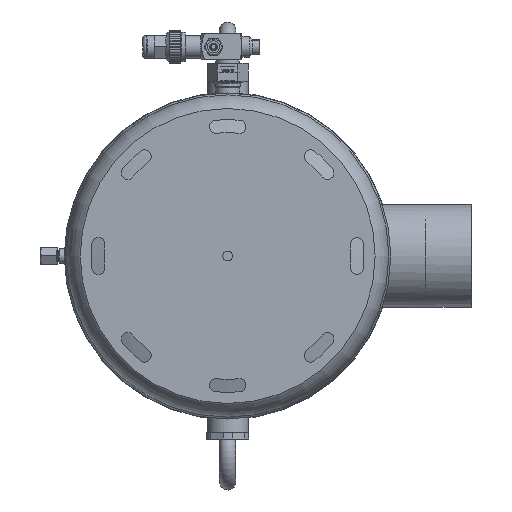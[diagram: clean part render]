
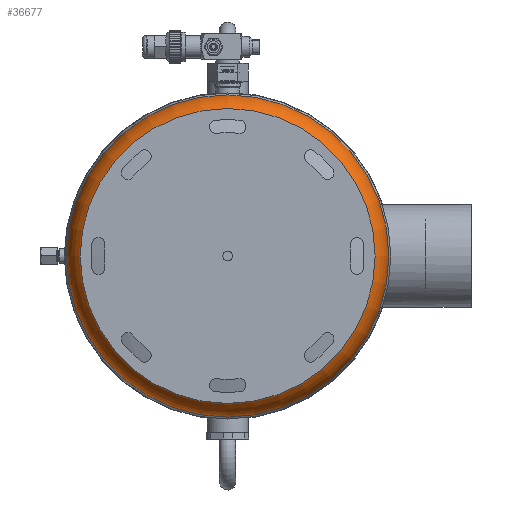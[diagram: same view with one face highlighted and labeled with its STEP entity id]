
A CAD part, front view. The second image highlights one B-rep face of the part: STEP entity #36677.
In plain terms, the highlighted toroidal (fillet/blend) face has major radius 103.2 mm and minor radius 33.4 mm.
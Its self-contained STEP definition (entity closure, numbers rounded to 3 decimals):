
#287=TOROIDAL_SURFACE('',#38632,103.2,33.4);
#5577=FACE_OUTER_BOUND('',#7760,.T.);
#7760=EDGE_LOOP('',(#31234,#31235,#31236,#31237,#31238,#31239,#31240));
#8947=CIRCLE('',#38626,117.235);
#8948=CIRCLE('',#38627,117.235);
#8949=CIRCLE('',#38629,136.6);
#8950=CIRCLE('',#38630,136.6);
#8951=CIRCLE('',#38631,136.6);
#8952=CIRCLE('',#38633,33.4);
#16713=VERTEX_POINT('',#246776);
#16714=VERTEX_POINT('',#246777);
#16715=VERTEX_POINT('',#246781);
#16716=VERTEX_POINT('',#246782);
#16717=VERTEX_POINT('',#246784);
#21710=EDGE_CURVE('',#16713,#16714,#8947,.T.);
#21711=EDGE_CURVE('',#16714,#16713,#8948,.T.);
#21712=EDGE_CURVE('',#16715,#16716,#8949,.T.);
#21713=EDGE_CURVE('',#16717,#16715,#8950,.T.);
#21715=EDGE_CURVE('',#16716,#16717,#8951,.T.);
#21716=EDGE_CURVE('',#16714,#16716,#8952,.T.);
#31234=ORIENTED_EDGE('',*,*,#21710,.F.);
#31235=ORIENTED_EDGE('',*,*,#21711,.F.);
#31236=ORIENTED_EDGE('',*,*,#21716,.T.);
#31237=ORIENTED_EDGE('',*,*,#21715,.T.);
#31238=ORIENTED_EDGE('',*,*,#21713,.T.);
#31239=ORIENTED_EDGE('',*,*,#21712,.T.);
#31240=ORIENTED_EDGE('',*,*,#21716,.F.);
#36677=ADVANCED_FACE('',(#5577),#287,.T.);
#38626=AXIS2_PLACEMENT_3D('',#246778,#43877,#43878);
#38627=AXIS2_PLACEMENT_3D('',#246779,#43879,#43880);
#38629=AXIS2_PLACEMENT_3D('',#246783,#43883,#43884);
#38630=AXIS2_PLACEMENT_3D('',#246785,#43885,#43886);
#38631=AXIS2_PLACEMENT_3D('',#246787,#43888,#43889);
#38632=AXIS2_PLACEMENT_3D('',#246788,#43890,#43891);
#38633=AXIS2_PLACEMENT_3D('',#246789,#43892,#43893);
#43877=DIRECTION('center_axis',(0.,-1.,0.));
#43878=DIRECTION('ref_axis',(-1.,0.,0.));
#43879=DIRECTION('center_axis',(0.,-1.,0.));
#43880=DIRECTION('ref_axis',(-1.,0.,0.));
#43883=DIRECTION('center_axis',(0.,-1.,0.));
#43884=DIRECTION('ref_axis',(-1.,0.,0.));
#43885=DIRECTION('center_axis',(0.,-1.,0.));
#43886=DIRECTION('ref_axis',(-1.,0.,0.));
#43888=DIRECTION('center_axis',(0.,-1.,0.));
#43889=DIRECTION('ref_axis',(-1.,0.,0.));
#43890=DIRECTION('center_axis',(0.,-1.,0.));
#43891=DIRECTION('ref_axis',(0.,0.,1.));
#43892=DIRECTION('center_axis',(1.,0.,0.));
#43893=DIRECTION('ref_axis',(0.,0.,-1.));
#246776=CARTESIAN_POINT('',(-117.235,-61.367,0.));
#246777=CARTESIAN_POINT('',(0.,-61.367,-117.235));
#246778=CARTESIAN_POINT('Origin',(0.,-61.367,
0.));
#246779=CARTESIAN_POINT('Origin',(0.,-61.367,
0.));
#246781=CARTESIAN_POINT('',(-136.6,-31.059,0.));
#246782=CARTESIAN_POINT('',(0.,-31.059,-136.6));
#246783=CARTESIAN_POINT('Origin',(0.,-31.059,
0.));
#246784=CARTESIAN_POINT('',(136.6,-31.059,0.));
#246785=CARTESIAN_POINT('Origin',(0.,-31.059,
0.));
#246787=CARTESIAN_POINT('Origin',(0.,-31.059,
0.));
#246788=CARTESIAN_POINT('Origin',(0.,-31.059,
0.));
#246789=CARTESIAN_POINT('Origin',(0.,-31.059,
-103.2));
